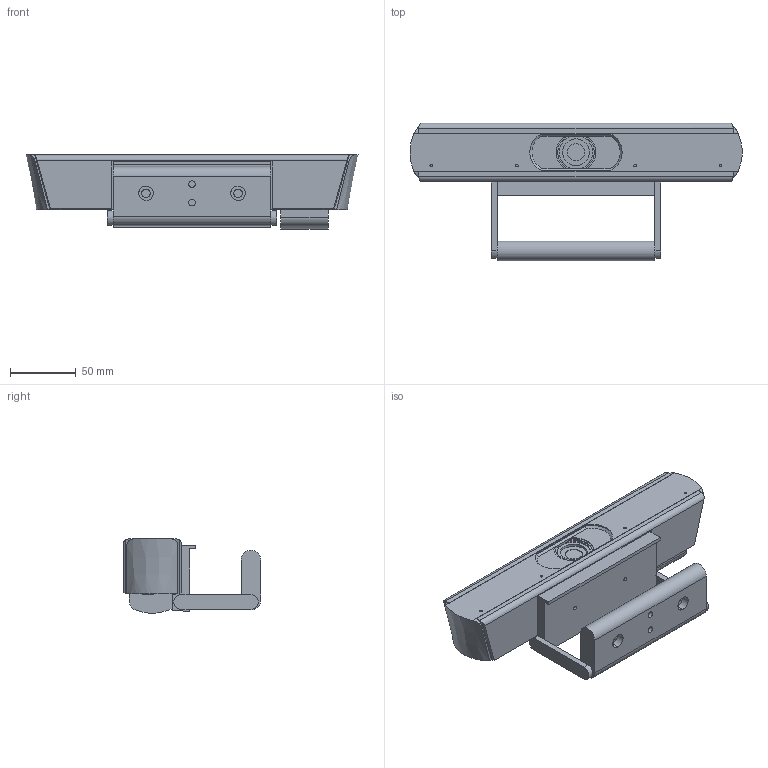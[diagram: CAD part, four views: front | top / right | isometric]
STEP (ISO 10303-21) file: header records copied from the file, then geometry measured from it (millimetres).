
FILE_DESCRIPTION (( 'STEP AP203' ), '1' );
FILE_NAME ('FG-901662-3D-A (Camera with Mounting Bracket).STEP', '2025-09-10T19:42:23', ( '' ), ( '' ), 'SwSTEP 2.0', 'SolidWorks 2023', '' );
FILE_SCHEMA (( 'CONFIG_CONTROL_DESIGN' ));
Length unit declared in the file: millimetre
Products named in the file (1): FG-901662-3D-A (Camera with Mounting Bracket)
Bounding box: 252.45 x 104.58 x 56.31 mm (x, y, z)
Volume: 582040.8 mm3; surface area: 131614 mm2
Topology: 10 solids, 12 shells, 226 faces, 531 edges, 349 vertices
Faces by surface type: plane 130, cylinder 91, cone 5
Entity records: 6695 total; most frequent: CARTESIAN_POINT 1295, DIRECTION 1122, ORIENTED_EDGE 1062, EDGE_CURVE 531, AXIS2_PLACEMENT_3D 396, VERTEX_POINT 349, LINE 330, VECTOR 330
